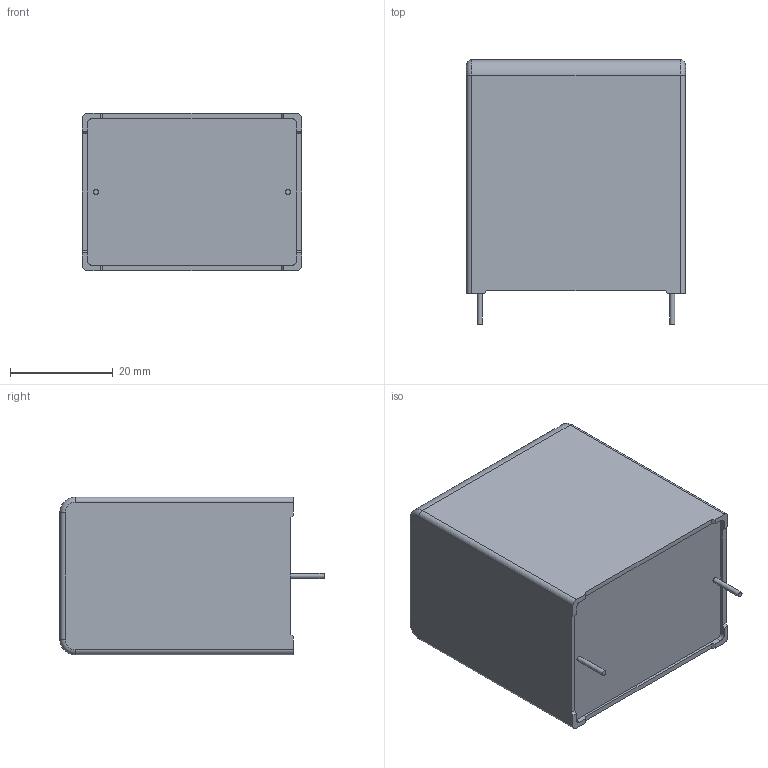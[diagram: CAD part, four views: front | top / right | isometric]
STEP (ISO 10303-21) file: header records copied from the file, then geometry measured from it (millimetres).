
FILE_DESCRIPTION (( 'STEP AP203' ), '1' );
FILE_NAME ('MKP1847H53048+P2.step', '2018-01-17T10:50:54', ( 'work' ), ( 'Hewlett-Packard Company' ), 'SwSTEP 2.0', 'SolidWorks 2017', '' );
FILE_SCHEMA (( 'CONFIG_CONTROL_DESIGN' ));
Length unit declared in the file: millimetre
Products named in the file (1): MKP1847H53048+P2
Bounding box: 42.7 x 51.5 x 30.7 mm (x, y, z)
Volume: 58215 mm3; surface area: 9146 mm2
Topology: 1 solids, 1 shells, 114 faces, 303 edges, 200 vertices
Faces by surface type: plane 80, bspline 16, cylinder 14, torus 4
Full cylindrical faces by diameter (mm): 1 x2
Entity records: 4252 total; most frequent: CARTESIAN_POINT 1436, ORIENTED_EDGE 598, DIRECTION 497, EDGE_CURVE 299, VECTOR 235, LINE 235, VERTEX_POINT 198, AXIS2_PLACEMENT_3D 131
